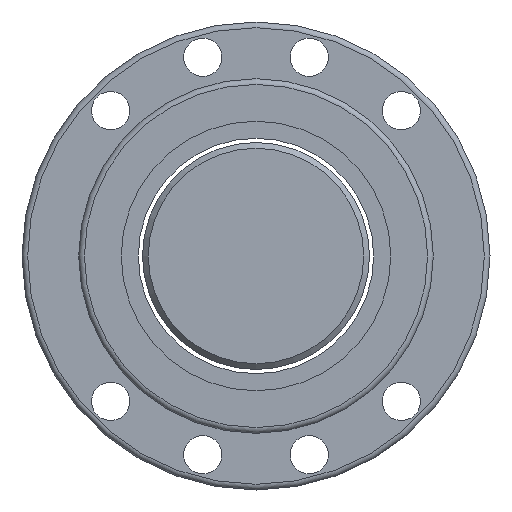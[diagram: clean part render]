
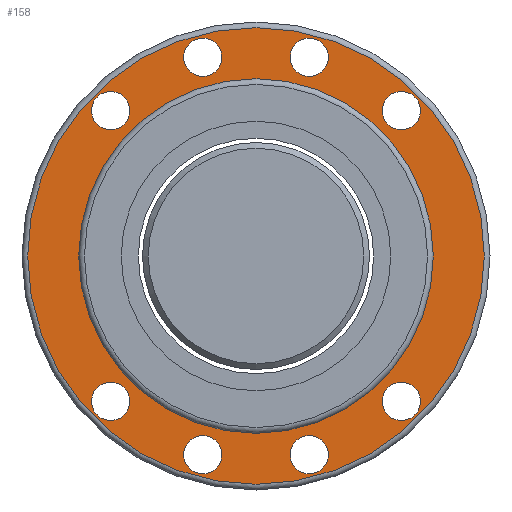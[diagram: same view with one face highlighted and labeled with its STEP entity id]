
A CAD part, left-side view. The second image highlights one B-rep face of the part: STEP entity #158.
In plain terms, the highlighted planar face has unit normal (-1, 0, 0).
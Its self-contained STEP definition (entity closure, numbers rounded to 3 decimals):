
#120=PLANE('',#706);
#137=FACE_OUTER_BOUND('',#332,.T.);
#158=ADVANCED_FACE('',(#228,#229,#230,#231,#232,#233,#234,#235,#236,#137),
#120,.T.);
#228=FACE_BOUND('',#323,.T.);
#229=FACE_BOUND('',#324,.T.);
#230=FACE_BOUND('',#325,.T.);
#231=FACE_BOUND('',#326,.T.);
#232=FACE_BOUND('',#327,.T.);
#233=FACE_BOUND('',#328,.T.);
#234=FACE_BOUND('',#329,.T.);
#235=FACE_BOUND('',#330,.T.);
#236=FACE_BOUND('',#331,.T.);
#323=EDGE_LOOP('',(#429));
#324=EDGE_LOOP('',(#430));
#325=EDGE_LOOP('',(#431));
#326=EDGE_LOOP('',(#432));
#327=EDGE_LOOP('',(#433));
#328=EDGE_LOOP('',(#434));
#329=EDGE_LOOP('',(#435));
#330=EDGE_LOOP('',(#436));
#331=EDGE_LOOP('',(#437));
#332=EDGE_LOOP('',(#438));
#429=ORIENTED_EDGE('',*,*,#580,.F.);
#430=ORIENTED_EDGE('',*,*,#581,.F.);
#431=ORIENTED_EDGE('',*,*,#582,.F.);
#432=ORIENTED_EDGE('',*,*,#583,.F.);
#433=ORIENTED_EDGE('',*,*,#584,.F.);
#434=ORIENTED_EDGE('',*,*,#585,.F.);
#435=ORIENTED_EDGE('',*,*,#586,.F.);
#436=ORIENTED_EDGE('',*,*,#587,.F.);
#437=ORIENTED_EDGE('',*,*,#588,.T.);
#438=ORIENTED_EDGE('',*,*,#578,.F.);
#525=VERTEX_POINT('',#1003);
#527=VERTEX_POINT('',#1008);
#528=VERTEX_POINT('',#1010);
#529=VERTEX_POINT('',#1012);
#530=VERTEX_POINT('',#1014);
#531=VERTEX_POINT('',#1016);
#532=VERTEX_POINT('',#1018);
#533=VERTEX_POINT('',#1020);
#534=VERTEX_POINT('',#1022);
#535=VERTEX_POINT('',#1024);
#578=EDGE_CURVE('',#525,#525,#631,.T.);
#580=EDGE_CURVE('',#527,#527,#633,.T.);
#581=EDGE_CURVE('',#528,#528,#634,.T.);
#582=EDGE_CURVE('',#529,#529,#635,.T.);
#583=EDGE_CURVE('',#530,#530,#636,.T.);
#584=EDGE_CURVE('',#531,#531,#637,.T.);
#585=EDGE_CURVE('',#532,#532,#638,.T.);
#586=EDGE_CURVE('',#533,#533,#639,.T.);
#587=EDGE_CURVE('',#534,#534,#640,.T.);
#588=EDGE_CURVE('',#535,#535,#641,.T.);
#631=CIRCLE('',#694,80.5);
#633=CIRCLE('',#697,6.75);
#634=CIRCLE('',#698,6.75);
#635=CIRCLE('',#699,6.75);
#636=CIRCLE('',#700,6.75);
#637=CIRCLE('',#701,6.75);
#638=CIRCLE('',#702,6.75);
#639=CIRCLE('',#703,6.75);
#640=CIRCLE('',#704,6.75);
#641=CIRCLE('',#705,62.5);
#694=AXIS2_PLACEMENT_3D('',#1002,#812,#813);
#697=AXIS2_PLACEMENT_3D('',#1007,#818,#819);
#698=AXIS2_PLACEMENT_3D('',#1009,#820,#821);
#699=AXIS2_PLACEMENT_3D('',#1011,#822,#823);
#700=AXIS2_PLACEMENT_3D('',#1013,#824,#825);
#701=AXIS2_PLACEMENT_3D('',#1015,#826,#827);
#702=AXIS2_PLACEMENT_3D('',#1017,#828,#829);
#703=AXIS2_PLACEMENT_3D('',#1019,#830,#831);
#704=AXIS2_PLACEMENT_3D('',#1021,#832,#833);
#705=AXIS2_PLACEMENT_3D('',#1023,#834,#835);
#706=AXIS2_PLACEMENT_3D('',#1025,#836,#837);
#812=DIRECTION('',(1.,0.,0.));
#813=DIRECTION('',(0.,0.,-1.));
#818=DIRECTION('',(-1.,0.,0.));
#819=DIRECTION('',(0.,0.,1.));
#820=DIRECTION('',(-1.,0.,0.));
#821=DIRECTION('',(0.,0.,1.));
#822=DIRECTION('',(-1.,0.,0.));
#823=DIRECTION('',(0.,0.,1.));
#824=DIRECTION('',(-1.,0.,0.));
#825=DIRECTION('',(0.,0.,1.));
#826=DIRECTION('',(-1.,0.,0.));
#827=DIRECTION('',(0.,0.,1.));
#828=DIRECTION('',(-1.,0.,0.));
#829=DIRECTION('',(0.,0.,1.));
#830=DIRECTION('',(-1.,0.,0.));
#831=DIRECTION('',(0.,0.,1.));
#832=DIRECTION('',(-1.,0.,0.));
#833=DIRECTION('',(0.,0.,1.));
#834=DIRECTION('',(1.,0.,0.));
#835=DIRECTION('',(0.,0.,-1.));
#836=DIRECTION('',(-1.,0.,0.));
#837=DIRECTION('',(0.,0.,1.));
#1002=CARTESIAN_POINT('',(-45.,0.,0.));
#1003=CARTESIAN_POINT('',(-45.,0.,-80.5));
#1007=CARTESIAN_POINT('',(-45.,51.27,-51.27));
#1008=CARTESIAN_POINT('',(-45.,51.27,-44.52));
#1009=CARTESIAN_POINT('',(-45.,18.766,-70.036));
#1010=CARTESIAN_POINT('',(-45.,18.766,-63.286));
#1011=CARTESIAN_POINT('',(-45.,-18.766,-70.036));
#1012=CARTESIAN_POINT('',(-45.,-18.766,-63.286));
#1013=CARTESIAN_POINT('',(-45.,-51.27,-51.27));
#1014=CARTESIAN_POINT('',(-45.,-51.27,-44.52));
#1015=CARTESIAN_POINT('',(-45.,-51.27,51.27));
#1016=CARTESIAN_POINT('',(-45.,-51.27,58.02));
#1017=CARTESIAN_POINT('',(-45.,-18.766,70.036));
#1018=CARTESIAN_POINT('',(-45.,-18.766,76.786));
#1019=CARTESIAN_POINT('',(-45.,18.766,70.036));
#1020=CARTESIAN_POINT('',(-45.,18.766,76.786));
#1021=CARTESIAN_POINT('',(-45.,51.27,51.27));
#1022=CARTESIAN_POINT('',(-45.,51.27,58.02));
#1023=CARTESIAN_POINT('',(-45.,0.,0.));
#1024=CARTESIAN_POINT('',(-45.,0.,-62.5));
#1025=CARTESIAN_POINT('',(-45.,71.5,0.));
